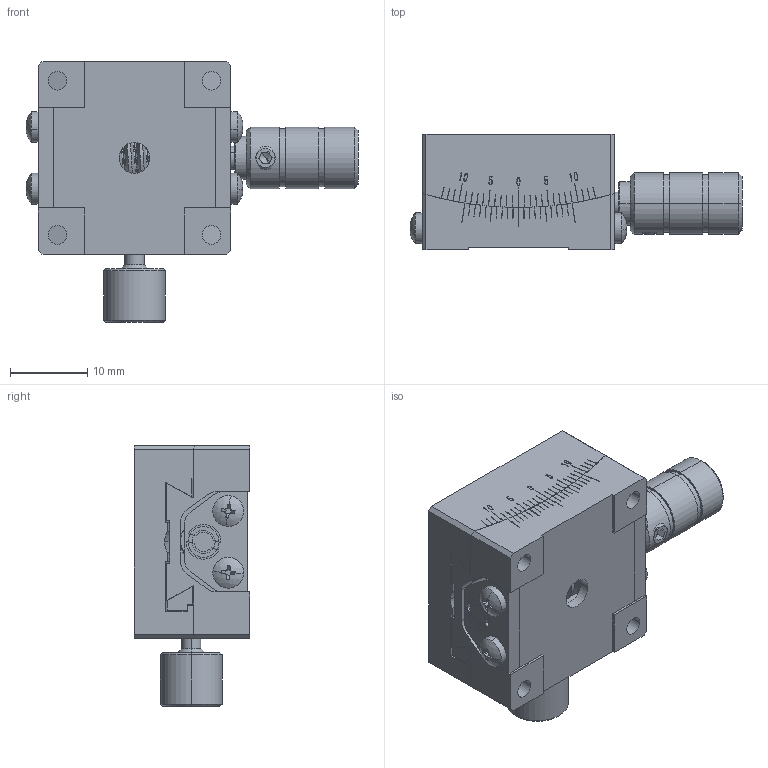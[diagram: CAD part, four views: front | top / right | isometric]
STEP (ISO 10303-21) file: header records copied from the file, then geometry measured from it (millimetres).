
FILE_DESCRIPTION (( 'STEP AP203' ), '1' );
FILE_NAME ('BFSG25-35.STEP', '2024-07-29T11:10:13', ( '微软用户' ), ( '微软中国' ), 'SwSTEP 2.0', 'SolidWorks 2024', '' );
FILE_SCHEMA (( 'CONFIG_CONTROL_DESIGN' ));
Length unit declared in the file: millimetre
Products named in the file (1): BFSG25-35
Bounding box: 43.08 x 15 x 33.86 mm (x, y, z)
Volume: 9242.8 mm3; surface area: 8248.7 mm2
Topology: 14 solids, 14 shells, 630 faces, 1813 edges, 1224 vertices
Faces by surface type: plane 385, cylinder 183, cone 43, sphere 8, torus 6, bspline 5
Entity records: 27791 total; most frequent: CARTESIAN_POINT 11081, ORIENTED_EDGE 3594, DIRECTION 3366, EDGE_CURVE 1797, VERTEX_POINT 1224, AXIS2_PLACEMENT_3D 1147, VECTOR 1072, LINE 1072
